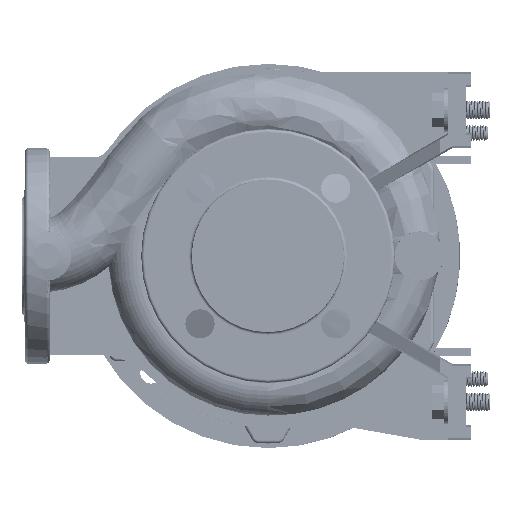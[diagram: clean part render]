
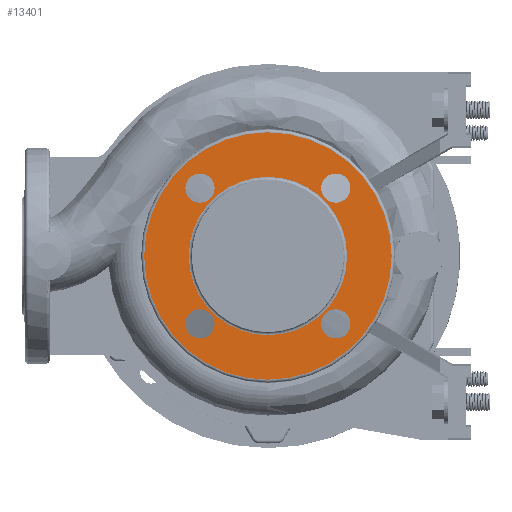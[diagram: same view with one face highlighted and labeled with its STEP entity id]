
A CAD part, left-side view. The second image highlights one B-rep face of the part: STEP entity #13401.
In plain terms, the highlighted planar face has unit normal (-1, 0, 0).
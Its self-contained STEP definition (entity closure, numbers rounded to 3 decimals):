
#5606 = CIRCLE ( 'NONE', #20576, 9.5 ) ;
#5739 = AXIS2_PLACEMENT_3D ( 'NONE', #43204, #183646, #172390 ) ;
#6021 = ORIENTED_EDGE ( 'NONE', *, *, #31977, .F. ) ;
#6507 = EDGE_LOOP ( 'NONE', ( #6021, #39080 ) ) ;
#6576 = CIRCLE ( 'NONE', #75280, 51.5 ) ;
#7383 = FACE_BOUND ( 'NONE', #153907, .T. ) ;
#7874 = EDGE_CURVE ( 'NONE', #119103, #88635, #75187, .T. ) ;
#9119 = DIRECTION ( 'NONE',  ( -1., 0., 0. ) ) ;
#10772 = ORIENTED_EDGE ( 'NONE', *, *, #162055, .F. ) ;
#13401 = ADVANCED_FACE ( 'NONE', ( #117926, #105726, #178703, #7383, #160947, #132872 ), #32681, .F. ) ;
#14662 = CARTESIAN_POINT ( 'NONE',  ( -82.456, 112.581, 200.184 ) ) ;
#15228 = CARTESIAN_POINT ( 'NONE',  ( -82.456, 210.469, 200.184 ) ) ;
#15390 = VERTEX_POINT ( 'NONE', #157059 ) ;
#17643 = VERTEX_POINT ( 'NONE', #142039 ) ;
#18784 = AXIS2_PLACEMENT_3D ( 'NONE', #166631, #95507, #67415 ) ;
#19908 = VERTEX_POINT ( 'NONE', #88385 ) ;
#20408 = CARTESIAN_POINT ( 'NONE',  ( -82.456, 112.581, 288.572 ) ) ;
#20576 = AXIS2_PLACEMENT_3D ( 'NONE', #20408, #9119, #150529 ) ;
#22153 = DIRECTION ( 'NONE',  ( -1., 0., 0. ) ) ;
#25472 = CIRCLE ( 'NONE', #148087, 80.5 ) ;
#31977 = EDGE_CURVE ( 'NONE', #51935, #15390, #137625, .T. ) ;
#32681 = PLANE ( 'NONE',  #48680 ) ;
#32988 = AXIS2_PLACEMENT_3D ( 'NONE', #166258, #95124, #55732 ) ;
#34528 = VERTEX_POINT ( 'NONE', #70914 ) ;
#35046 = CIRCLE ( 'NONE', #91875, 9.5 ) ;
#39080 = ORIENTED_EDGE ( 'NONE', *, *, #116197, .F. ) ;
#41224 = EDGE_CURVE ( 'NONE', #19908, #17643, #71360, .T. ) ;
#42621 = CARTESIAN_POINT ( 'NONE',  ( -82.456, 200.969, 288.572 ) ) ;
#43204 = CARTESIAN_POINT ( 'NONE',  ( -82.456, 112.581, 200.184 ) ) ;
#45604 = ORIENTED_EDGE ( 'NONE', *, *, #149431, .F. ) ;
#45746 = EDGE_CURVE ( 'NONE', #89825, #34528, #74818, .T. ) ;
#46174 = CARTESIAN_POINT ( 'NONE',  ( -82.456, 122.081, 200.184 ) ) ;
#48680 = AXIS2_PLACEMENT_3D ( 'NONE', #148766, #161887, #74854 ) ;
#51144 = CARTESIAN_POINT ( 'NONE',  ( -82.456, 200.969, 288.572 ) ) ;
#51935 = VERTEX_POINT ( 'NONE', #123135 ) ;
#53531 = EDGE_CURVE ( 'NONE', #85825, #70336, #35046, .T. ) ;
#55732 = DIRECTION ( 'NONE',  ( 0., -1., 0. ) ) ;
#59555 = ORIENTED_EDGE ( 'NONE', *, *, #128571, .T. ) ;
#59695 = DIRECTION ( 'NONE',  ( -1., 0., 0. ) ) ;
#62908 = DIRECTION ( 'NONE',  ( -1., 0., 0. ) ) ;
#63327 = ORIENTED_EDGE ( 'NONE', *, *, #7874, .F. ) ;
#64048 = ORIENTED_EDGE ( 'NONE', *, *, #86770, .F. ) ;
#65618 = CIRCLE ( 'NONE', #5739, 9.5 ) ;
#66565 = EDGE_LOOP ( 'NONE', ( #137949, #123963 ) ) ;
#67415 = DIRECTION ( 'NONE',  ( 0., 0., 1. ) ) ;
#68613 = EDGE_LOOP ( 'NONE', ( #45604, #159979 ) ) ;
#70336 = VERTEX_POINT ( 'NONE', #167561 ) ;
#70914 = CARTESIAN_POINT ( 'NONE',  ( -82.456, 103.081, 288.572 ) ) ;
#71360 = CIRCLE ( 'NONE', #89280, 80.5 ) ;
#74818 = CIRCLE ( 'NONE', #101833, 9.5 ) ;
#74854 = DIRECTION ( 'NONE',  ( 0., 1., 0. ) ) ;
#75187 = CIRCLE ( 'NONE', #179800, 9.5 ) ;
#75280 = AXIS2_PLACEMENT_3D ( 'NONE', #166952, #82730, #182866 ) ;
#76289 = CIRCLE ( 'NONE', #115193, 9.5 ) ;
#78303 = EDGE_CURVE ( 'NONE', #89334, #165091, #65618, .T. ) ;
#79075 = CARTESIAN_POINT ( 'NONE',  ( -82.456, 103.081, 200.184 ) ) ;
#82730 = DIRECTION ( 'NONE',  ( -1., 0., 0. ) ) ;
#85825 = VERTEX_POINT ( 'NONE', #179051 ) ;
#86770 = EDGE_CURVE ( 'NONE', #88635, #119103, #99564, .T. ) ;
#88385 = CARTESIAN_POINT ( 'NONE',  ( -82.456, 76.275, 244.378 ) ) ;
#88635 = VERTEX_POINT ( 'NONE', #91712 ) ;
#89280 = AXIS2_PLACEMENT_3D ( 'NONE', #156181, #59695, #102801 ) ;
#89334 = VERTEX_POINT ( 'NONE', #79075 ) ;
#89825 = VERTEX_POINT ( 'NONE', #135034 ) ;
#91712 = CARTESIAN_POINT ( 'NONE',  ( -82.456, 191.469, 200.184 ) ) ;
#91875 = AXIS2_PLACEMENT_3D ( 'NONE', #42621, #142802, #128752 ) ;
#95124 = DIRECTION ( 'NONE',  ( -1., 0., 0. ) ) ;
#95507 = DIRECTION ( 'NONE',  ( -1., 0., 0. ) ) ;
#99564 = CIRCLE ( 'NONE', #18784, 9.5 ) ;
#101833 = AXIS2_PLACEMENT_3D ( 'NONE', #154093, #22153, #153173 ) ;
#102801 = DIRECTION ( 'NONE',  ( 0., -1., 0. ) ) ;
#104792 = EDGE_CURVE ( 'NONE', #165091, #89334, #152559, .T. ) ;
#105726 = FACE_BOUND ( 'NONE', #66565, .T. ) ;
#106370 = DIRECTION ( 'NONE',  ( -1., 0., 0. ) ) ;
#113720 = AXIS2_PLACEMENT_3D ( 'NONE', #14662, #159747, #130723 ) ;
#115193 = AXIS2_PLACEMENT_3D ( 'NONE', #51144, #162629, #119564 ) ;
#116197 = EDGE_CURVE ( 'NONE', #15390, #51935, #6576, .T. ) ;
#117926 = FACE_BOUND ( 'NONE', #68613, .T. ) ;
#119103 = VERTEX_POINT ( 'NONE', #15228 ) ;
#119564 = DIRECTION ( 'NONE',  ( 0., -1., 0. ) ) ;
#120023 = DIRECTION ( 'NONE',  ( 0., -1., 0. ) ) ;
#122897 = EDGE_LOOP ( 'NONE', ( #64048, #63327 ) ) ;
#123135 = CARTESIAN_POINT ( 'NONE',  ( -82.456, 105.275, 244.378 ) ) ;
#123963 = ORIENTED_EDGE ( 'NONE', *, *, #104792, .F. ) ;
#127810 = ORIENTED_EDGE ( 'NONE', *, *, #41224, .T. ) ;
#128571 = EDGE_CURVE ( 'NONE', #17643, #19908, #25472, .T. ) ;
#128752 = DIRECTION ( 'NONE',  ( 0., -1., 0. ) ) ;
#130723 = DIRECTION ( 'NONE',  ( 0., 1., 0. ) ) ;
#131263 = ORIENTED_EDGE ( 'NONE', *, *, #53531, .F. ) ;
#132872 = FACE_OUTER_BOUND ( 'NONE', #181921, .T. ) ;
#134048 = CARTESIAN_POINT ( 'NONE',  ( -82.456, 156.775, 244.378 ) ) ;
#135034 = CARTESIAN_POINT ( 'NONE',  ( -82.456, 122.081, 288.572 ) ) ;
#136282 = CARTESIAN_POINT ( 'NONE',  ( -82.456, 200.969, 200.184 ) ) ;
#137625 = CIRCLE ( 'NONE', #32988, 51.5 ) ;
#137949 = ORIENTED_EDGE ( 'NONE', *, *, #78303, .F. ) ;
#142039 = CARTESIAN_POINT ( 'NONE',  ( -82.456, 237.275, 244.378 ) ) ;
#142802 = DIRECTION ( 'NONE',  ( -1., 0., 0. ) ) ;
#148087 = AXIS2_PLACEMENT_3D ( 'NONE', #134048, #62908, #120023 ) ;
#148766 = CARTESIAN_POINT ( 'NONE',  ( -82.456, 208.275, 244.378 ) ) ;
#149431 = EDGE_CURVE ( 'NONE', #34528, #89825, #5606, .T. ) ;
#150529 = DIRECTION ( 'NONE',  ( 0., 0., -1. ) ) ;
#152559 = CIRCLE ( 'NONE', #113720, 9.5 ) ;
#153173 = DIRECTION ( 'NONE',  ( 0., 0., -1. ) ) ;
#153907 = EDGE_LOOP ( 'NONE', ( #10772, #131263 ) ) ;
#154093 = CARTESIAN_POINT ( 'NONE',  ( -82.456, 112.581, 288.572 ) ) ;
#156181 = CARTESIAN_POINT ( 'NONE',  ( -82.456, 156.775, 244.378 ) ) ;
#157059 = CARTESIAN_POINT ( 'NONE',  ( -82.456, 208.275, 244.378 ) ) ;
#159747 = DIRECTION ( 'NONE',  ( -1., 0., 0. ) ) ;
#159979 = ORIENTED_EDGE ( 'NONE', *, *, #45746, .F. ) ;
#160947 = FACE_BOUND ( 'NONE', #6507, .T. ) ;
#161887 = DIRECTION ( 'NONE',  ( 1., 0., 0. ) ) ;
#162055 = EDGE_CURVE ( 'NONE', #70336, #85825, #76289, .T. ) ;
#162536 = DIRECTION ( 'NONE',  ( 0., 0., 1. ) ) ;
#162629 = DIRECTION ( 'NONE',  ( -1., 0., 0. ) ) ;
#165091 = VERTEX_POINT ( 'NONE', #46174 ) ;
#166258 = CARTESIAN_POINT ( 'NONE',  ( -82.456, 156.775, 244.378 ) ) ;
#166631 = CARTESIAN_POINT ( 'NONE',  ( -82.456, 200.969, 200.184 ) ) ;
#166952 = CARTESIAN_POINT ( 'NONE',  ( -82.456, 156.775, 244.378 ) ) ;
#167561 = CARTESIAN_POINT ( 'NONE',  ( -82.456, 191.469, 288.572 ) ) ;
#172390 = DIRECTION ( 'NONE',  ( 0., 1., 0. ) ) ;
#178703 = FACE_BOUND ( 'NONE', #122897, .T. ) ;
#179051 = CARTESIAN_POINT ( 'NONE',  ( -82.456, 210.469, 288.572 ) ) ;
#179800 = AXIS2_PLACEMENT_3D ( 'NONE', #136282, #106370, #162536 ) ;
#181921 = EDGE_LOOP ( 'NONE', ( #127810, #59555 ) ) ;
#182866 = DIRECTION ( 'NONE',  ( 0., -1., 0. ) ) ;
#183646 = DIRECTION ( 'NONE',  ( -1., 0., 0. ) ) ;
